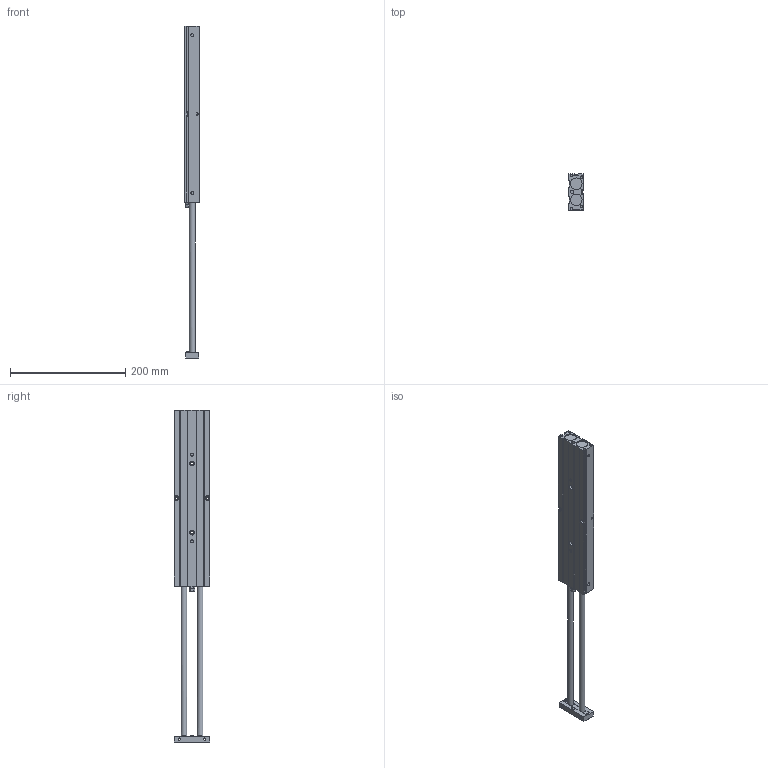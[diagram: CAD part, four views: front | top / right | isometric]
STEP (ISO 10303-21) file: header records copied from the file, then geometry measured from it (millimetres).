
FILE_DESCRIPTION((''),'2;1');
FILE_NAME('I:\3D電子目錄\氣缸\TD\TD20\TD20\TD20x250.stp','2007-08-06T09:48:11',('Administrator'),(''),'Autodesk Inventor 2008','Autodesk Inventor 2008','');
FILE_SCHEMA(('AUTOMOTIVE_DESIGN { 1 0 10303 214 1 1 1 1 }'));
Length unit declared in the file: millimetre
Products named in the file (1): TD20X250
Bounding box: 25 x 62 x 575 mm (x, y, z)
Volume: 477100.6 mm3; surface area: 98764.1 mm2
Topology: 1 solids, 3 shells, 197 faces, 503 edges, 329 vertices
Faces by surface type: plane 136, cylinder 48, cone 7, bspline 4, torus 2
Full cylindrical faces by diameter (mm): 4 x4, 4.5 x4, 5 x4, 6 x2, 7 x2, 8 x6, 9 x2, 10 x2, 20 x4
Entity records: 6108 total; most frequent: CARTESIAN_POINT 1453, DIRECTION 927, ORIENTED_EDGE 916, EDGE_CURVE 458, VERTEX_POINT 323, AXIS2_PLACEMENT_3D 310, VECTOR 307, LINE 307
